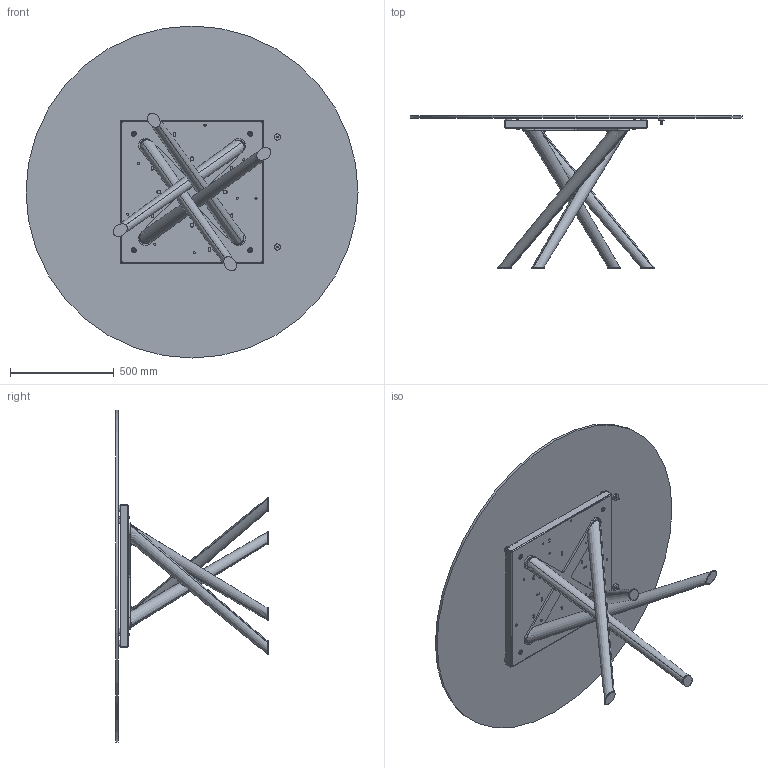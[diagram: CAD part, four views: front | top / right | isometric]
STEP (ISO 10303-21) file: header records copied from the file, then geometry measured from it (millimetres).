
FILE_DESCRIPTION (( 'STEP AP203' ), '1' );
FILE_NAME ('BA08G.STEP', '2024-08-08T06:39:21', ( '' ), ( '' ), 'SwSTEP 2.0', 'SolidWorks 2022', '' );
FILE_SCHEMA (( 'CONFIG_CONTROL_DESIGN' ));
Length unit declared in the file: millimetre
Products named in the file (15): rondella M8_8X24; Parte5^BAB000000-00-BALY BASE GREZZA; M8xXXmm_M8x55mm; M8xXXmm_M8x20mm; TTAV0801 TELAIO UNIVERSALE TONDO-PIASTRINA; BAB000000_02-00-basamento pali conificati; 434070-00-PIEDINO TPV GOMMA NERO D. 30x8max18; TTAV0801-02-TELAIO UNIVERSALE TONDO-VASSOIO; COLLO TELAIO UNIVERSALE TTAV0801 CON FERRAMENTA_MTG TOP LEGNO-MARMO-KING; BAB000000-00-BALY BASE GREZZA; BAB000000_01-00-Croce Superiore baly; BA08G; rondella M8_8X16; C1XCRMXX-00-piani Rotondi Cristallo_C08 D.160cm; TTAV0801-02-TELAIO UNIVERSALE TONDO
Assembly tree (34 placements, depth 4):
  BA08G
    C1XCRMXX-00-piani Rotondi Cristallo_C08 D.160cm
    BAB000000-00-BALY BASE GREZZA
      BAB000000_01-00-Croce Superiore baly
      BAB000000_02-00-basamento pali conificati
      Parte5^BAB000000-00-BALY BASE GREZZA
    COLLO TELAIO UNIVERSALE TTAV0801 CON FERRAMENTA_MTG TOP LEGNO-MARMO-KING
      TTAV0801-02-TELAIO UNIVERSALE TONDO
        TTAV0801-02-TELAIO UNIVERSALE TONDO-VASSOIO
        TTAV0801 TELAIO UNIVERSALE TONDO-PIASTRINA  x4
      rondella M8_8X24  x4
      M8xXXmm_M8x55mm  x4
    434070-00-PIEDINO TPV GOMMA NERO D. 30x8max18  x6
    M8xXXmm_M8x20mm  x4
    rondella M8_8X16  x4
Bounding box: 1600 x 737 x 1600 mm (x, y, z)
Volume: 28859398.2 mm3; surface area: 6917150.4 mm2
Topology: 43 solids, 43 shells, 945 faces, 2281 edges, 1414 vertices
Faces by surface type: plane 398, cylinder 315, torus 120, cone 104, bspline 8
Entity records: 18689 total; most frequent: CARTESIAN_POINT 4396, DIRECTION 2614, ORIENTED_EDGE 2488, EDGE_CURVE 1244, AXIS2_PLACEMENT_3D 954, VERTEX_POINT 796, LINE 706, VECTOR 706
